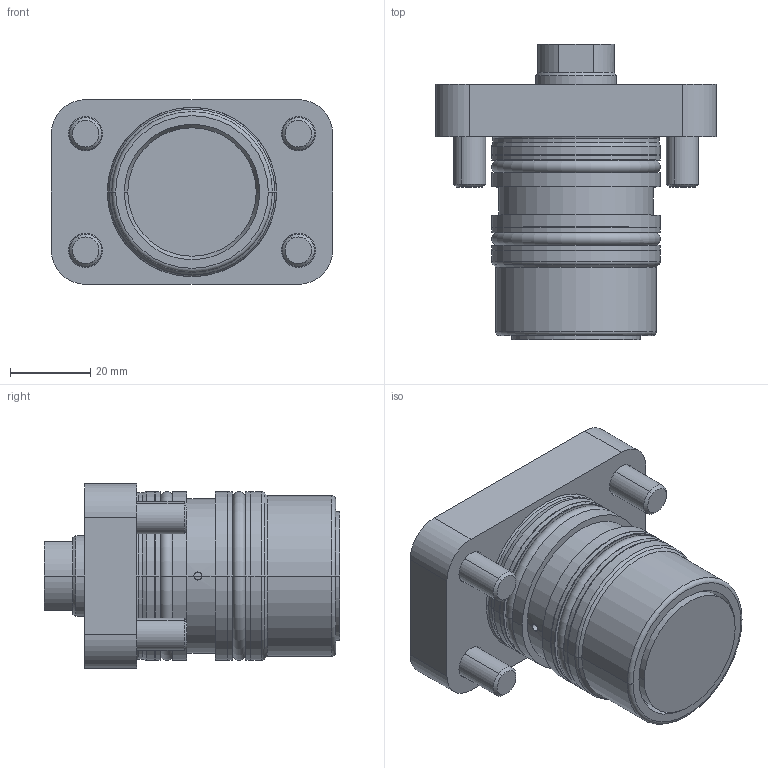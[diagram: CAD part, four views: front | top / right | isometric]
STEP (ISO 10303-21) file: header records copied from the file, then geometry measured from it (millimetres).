
FILE_DESCRIPTION (( 'STEP AP203' ), '1' );
FILE_NAME ('GERMA_Einbauzylinder_210-032-025.STEP', '2023-09-06T16:56:47', ( '' ), ( '' ), 'SwSTEP 2.0', 'SolidWorks 2016', '' );
FILE_SCHEMA (( 'CONFIG_CONTROL_DESIGN' ));
Length unit declared in the file: millimetre
Products named in the file (4): Kolben 60x-032_Kolben DU.32-Hub25-IG; Gehaeuse 210-032_Gehaeuse 210-032-025; GERMA_Einbauzylinder_210-032-025; DIN7984-M8x20
Assembly tree (6 placements, depth 2):
  GERMA_Einbauzylinder_210-032-025
    Gehaeuse 210-032_Gehaeuse 210-032-025
    Kolben 60x-032_Kolben DU.32-Hub25-IG
    DIN7984-M8x20  x4
Bounding box: 70 x 73.5 x 46 mm (x, y, z)
Volume: 96184.2 mm3; surface area: 34165.7 mm2
Topology: 6 solids, 6 shells, 374 faces, 893 edges, 558 vertices
Faces by surface type: plane 163, bspline 84, cylinder 75, cone 30, torus 22
Entity records: 12916 total; most frequent: CARTESIAN_POINT 5840, ORIENTED_EDGE 1430, DIRECTION 1218, EDGE_CURVE 715, VERTEX_POINT 459, AXIS2_PLACEMENT_3D 421, VECTOR 376, LINE 376
